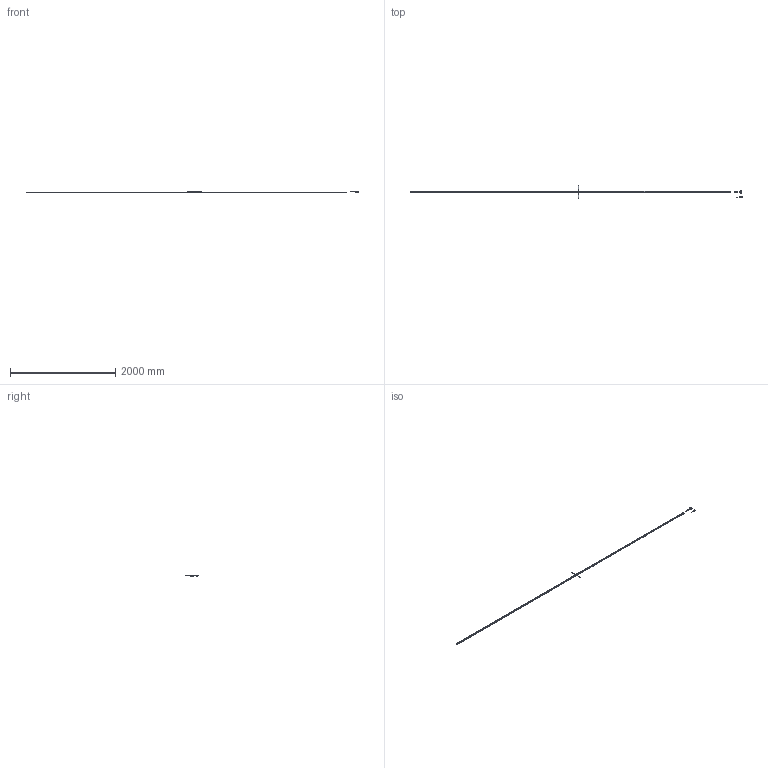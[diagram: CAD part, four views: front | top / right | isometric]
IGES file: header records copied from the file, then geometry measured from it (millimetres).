
Start section: Elysium IGES Interface
Global section: file name: 78H\\Utsu119s\kiyo_cad\data\3D\ST700_小型\HP掲載用_201802\PKG\ABS_ST700-6000A.igs; native system: Creo Elements/Direct Modeling 18.1B  29-Sep-2012; preprocessor: Creo Element/Direct IGES_3D V2.2; author: Unknown; organization: Unknown; date: 20180214.135702; units: millimetre
Bounding box: 6294.5 x 227.7 x 23.3 mm (x, y, z)
Volume: 1185677.2 mm3; surface area: 438030.3 mm2
Topology: 7 solids, 7 shells, 6998 faces, 19129 edges, 12571 vertices
Faces by surface type: bspline 6998
